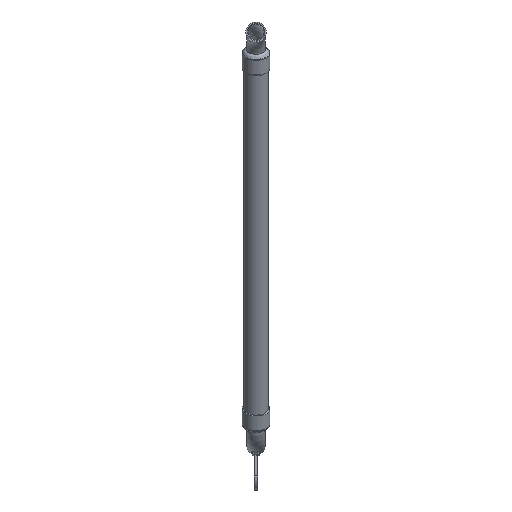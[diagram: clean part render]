
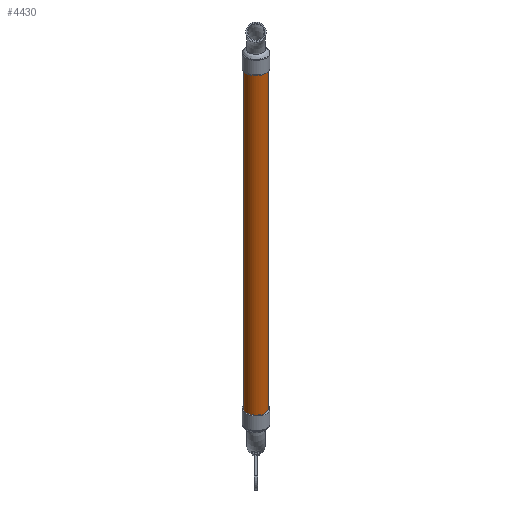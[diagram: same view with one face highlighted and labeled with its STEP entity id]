
A CAD part, front view. The second image highlights one B-rep face of the part: STEP entity #4430.
In plain terms, the highlighted cylindrical face has radius 11.354 mm (diameter 22.708 mm), a full revolution.
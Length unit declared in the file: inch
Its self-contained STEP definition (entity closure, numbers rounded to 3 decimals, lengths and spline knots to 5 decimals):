
#4403=CARTESIAN_POINT('',(0.0,0.0,0.0));
#4404=DIRECTION('',(0.0,0.0,1.0));
#4405=DIRECTION('',(-1.0,0.0,0.0));
#4406=AXIS2_PLACEMENT_3D('',#4403,#4404,#4405);
#4407=CYLINDRICAL_SURFACE('',#4406,0.447);
#4408=CARTESIAN_POINT('',(0.447,0.,15.25));
#4409=VERTEX_POINT('',#4408);
#4410=CARTESIAN_POINT('',(0.0,0.0,15.25));
#4411=DIRECTION('',(0.0,0.0,-1.0));
#4412=DIRECTION('',(-1.0,0.0,0.0));
#4413=AXIS2_PLACEMENT_3D('',#4410,#4411,#4412);
#4414=CIRCLE('',#4413,0.447);
#4415=EDGE_CURVE('',#4409,#4409,#4414,.T.);
#4416=ORIENTED_EDGE('',*,*,#4415,.T.);
#4417=EDGE_LOOP('',(#4416));
#4418=FACE_OUTER_BOUND('',#4417,.T.);
#4419=CARTESIAN_POINT('',(0.447,0.,0.0));
#4420=VERTEX_POINT('',#4419);
#4421=CARTESIAN_POINT('',(0.0,0.0,0.0));
#4422=DIRECTION('',(0.0,0.0,-1.0));
#4423=DIRECTION('',(-1.0,0.0,0.0));
#4424=AXIS2_PLACEMENT_3D('',#4421,#4422,#4423);
#4425=CIRCLE('',#4424,0.447);
#4426=EDGE_CURVE('',#4420,#4420,#4425,.T.);
#4427=ORIENTED_EDGE('',*,*,#4426,.F.);
#4428=EDGE_LOOP('',(#4427));
#4429=FACE_BOUND('',#4428,.T.);
#4430=ADVANCED_FACE('',(#4418,#4429),#4407,.T.);
